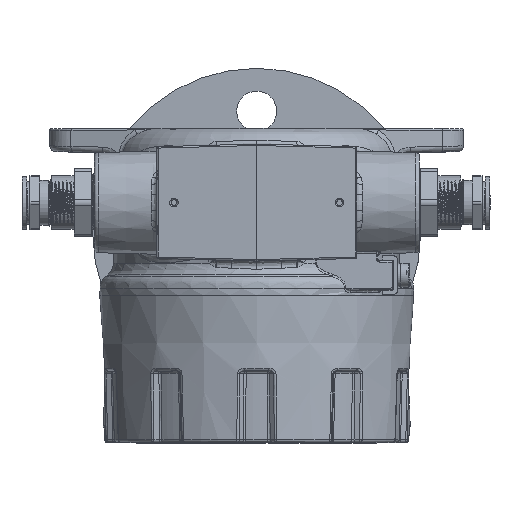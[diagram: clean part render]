
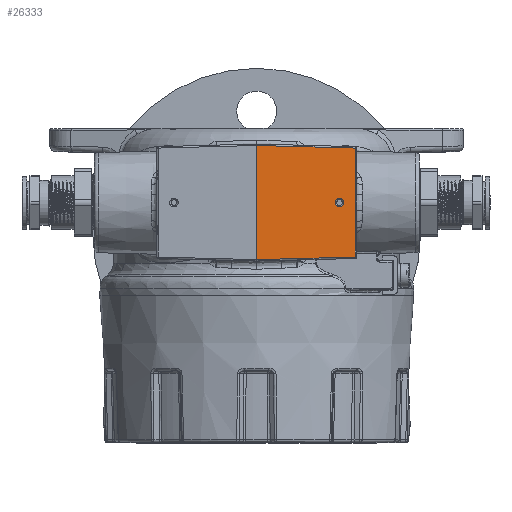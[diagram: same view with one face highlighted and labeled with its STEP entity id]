
A CAD part, top view. The second image highlights one B-rep face of the part: STEP entity #26333.
In plain terms, the highlighted planar face has unit normal (0.035, 0, 0.999) as drawn and (0.035, 0.999, 0) by its records, which use the part's own axes.
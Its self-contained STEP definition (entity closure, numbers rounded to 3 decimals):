
#817=FACE_BOUND('',#3660,.T.);
#987=PLANE('',#28291);
#1960=FACE_OUTER_BOUND('',#3659,.T.);
#3659=EDGE_LOOP('',(#18513,#18514,#18515,#18516));
#3660=EDGE_LOOP('',(#18517));
#6633=B_SPLINE_CURVE_WITH_KNOTS('',3,(#72474,#72475,#72476,#72477,#72478,
#72479,#72480,#72481,#72482,#72483,#72484,#72485,#72486,#72487,#72488,#72489,
#72490,#72491,#72492,#72493,#72494,#72495,#72496,#72497,#72498,#72499,#72500,
#72501,#72502,#72503,#72504,#72505,#72506,#72507,#72508,#72509,#72510,#72511,
#72512),.UNSPECIFIED.,.T.,.F.,(4,2,2,2,2,2,2,2,2,3,2,2,2,2,2,2,2,2,4),(0.363,
0.414,0.487,0.55,0.608,
0.669,0.75,0.819,0.857,
0.893,0.944,0.992,1.033,
1.074,1.112,1.152,1.194,1.249,
1.256),.UNSPECIFIED.);
#7524=LINE('',#72467,#9360);
#7525=LINE('',#72469,#9361);
#7526=LINE('',#72471,#9362);
#7527=LINE('',#72472,#9363);
#9360=VECTOR('',#31048,1000.);
#9361=VECTOR('',#31049,1000.);
#9362=VECTOR('',#31050,1000.);
#9363=VECTOR('',#31051,1000.);
#11400=VERTEX_POINT('',#72465);
#11401=VERTEX_POINT('',#72466);
#11402=VERTEX_POINT('',#72468);
#11403=VERTEX_POINT('',#72470);
#11404=VERTEX_POINT('',#72473);
#14075=EDGE_CURVE('',#11400,#11401,#7524,.F.);
#14076=EDGE_CURVE('',#11401,#11402,#7525,.T.);
#14077=EDGE_CURVE('',#11402,#11403,#7526,.T.);
#14078=EDGE_CURVE('',#11403,#11400,#7527,.T.);
#14079=EDGE_CURVE('',#11404,#11404,#6633,.T.);
#18513=ORIENTED_EDGE('',*,*,#14075,.T.);
#18514=ORIENTED_EDGE('',*,*,#14076,.T.);
#18515=ORIENTED_EDGE('',*,*,#14077,.T.);
#18516=ORIENTED_EDGE('',*,*,#14078,.T.);
#18517=ORIENTED_EDGE('',*,*,#14079,.T.);
#26333=ADVANCED_FACE('',(#1960,#817),#987,.F.);
#28291=AXIS2_PLACEMENT_3D('',#72464,#31046,#31047);
#31046=DIRECTION('center_axis',(-0.035,-0.999,
0.));
#31047=DIRECTION('ref_axis',(0.999,-0.035,0.));
#31048=DIRECTION('',(0.,0.,1.));
#31049=DIRECTION('',(-0.999,0.035,-0.026));
#31050=DIRECTION('',(0.,0.,1.));
#31051=DIRECTION('',(0.999,-0.035,-0.026));
#72464=CARTESIAN_POINT('Origin',(0.,61.5,-155.5));
#72465=CARTESIAN_POINT('',(34.517,60.295,-115.904));
#72466=CARTESIAN_POINT('',(34.517,60.295,-154.096));
#72467=CARTESIAN_POINT('',(34.517,60.295,-155.5));
#72468=CARTESIAN_POINT('',(0.,61.5,-155.));
#72469=CARTESIAN_POINT('',(-0.013,61.5,-155.001));
#72470=CARTESIAN_POINT('',(0.,61.5,-115.));
#72471=CARTESIAN_POINT('',(0.,61.5,-155.5));
#72472=CARTESIAN_POINT('',(34.987,60.278,-115.916));
#72473=CARTESIAN_POINT('',(27.534,60.538,-135.));
#72474=CARTESIAN_POINT('Ctrl Pts',(27.534,60.538,-135.));
#72475=CARTESIAN_POINT('Ctrl Pts',(27.534,60.538,-135.19));
#72476=CARTESIAN_POINT('Ctrl Pts',(27.574,60.537,-135.36));
#72477=CARTESIAN_POINT('Ctrl Pts',(27.674,60.534,-135.652));
#72478=CARTESIAN_POINT('Ctrl Pts',(27.769,60.53,-135.827));
#72479=CARTESIAN_POINT('Ctrl Pts',(28.028,60.521,-136.12));
#72480=CARTESIAN_POINT('Ctrl Pts',(28.176,60.516,-136.236));
#72481=CARTESIAN_POINT('Ctrl Pts',(28.516,60.504,-136.406));
#72482=CARTESIAN_POINT('Ctrl Pts',(28.707,60.498,-136.465));
#72483=CARTESIAN_POINT('Ctrl Pts',(29.141,60.482,-136.495));
#72484=CARTESIAN_POINT('Ctrl Pts',(29.342,60.475,-136.452));
#72485=CARTESIAN_POINT('Ctrl Pts',(29.648,60.465,-136.353));
#72486=CARTESIAN_POINT('Ctrl Pts',(29.824,60.459,-136.261));
#72487=CARTESIAN_POINT('Ctrl Pts',(30.122,60.448,-136.005));
#72488=CARTESIAN_POINT('Ctrl Pts',(30.24,60.444,-135.86));
#72489=CARTESIAN_POINT('Ctrl Pts',(30.382,60.439,-135.585));
#72490=CARTESIAN_POINT('Ctrl Pts',(30.426,60.438,-135.475));
#72491=CARTESIAN_POINT('Ctrl Pts',(30.485,60.435,-135.238));
#72492=CARTESIAN_POINT('Ctrl Pts',(30.499,60.435,-135.12));
#72493=CARTESIAN_POINT('Ctrl Pts',(30.5,60.435,-135.003));
#72494=CARTESIAN_POINT('Ctrl Pts',(30.5,60.435,-134.831));
#72495=CARTESIAN_POINT('Ctrl Pts',(30.469,60.436,-134.647));
#72496=CARTESIAN_POINT('Ctrl Pts',(30.331,60.441,-134.292));
#72497=CARTESIAN_POINT('Ctrl Pts',(30.229,60.444,-134.12));
#72498=CARTESIAN_POINT('Ctrl Pts',(29.953,60.454,-133.835));
#72499=CARTESIAN_POINT('Ctrl Pts',(29.798,60.459,-133.728));
#72500=CARTESIAN_POINT('Ctrl Pts',(29.463,60.471,-133.575));
#72501=CARTESIAN_POINT('Ctrl Pts',(29.27,60.478,-133.524));
#72502=CARTESIAN_POINT('Ctrl Pts',(28.863,60.492,-133.512));
#72503=CARTESIAN_POINT('Ctrl Pts',(28.673,60.499,-133.548));
#72504=CARTESIAN_POINT('Ctrl Pts',(28.339,60.51,-133.67));
#72505=CARTESIAN_POINT('Ctrl Pts',(28.165,60.516,-133.768));
#72506=CARTESIAN_POINT('Ctrl Pts',(27.848,60.528,-134.061));
#72507=CARTESIAN_POINT('Ctrl Pts',(27.741,60.531,-134.234));
#72508=CARTESIAN_POINT('Ctrl Pts',(27.602,60.536,-134.525));
#72509=CARTESIAN_POINT('Ctrl Pts',(27.547,60.538,-134.716));
#72510=CARTESIAN_POINT('Ctrl Pts',(27.535,60.538,-134.952));
#72511=CARTESIAN_POINT('Ctrl Pts',(27.534,60.538,-134.976));
#72512=CARTESIAN_POINT('Ctrl Pts',(27.534,60.538,-135.));
